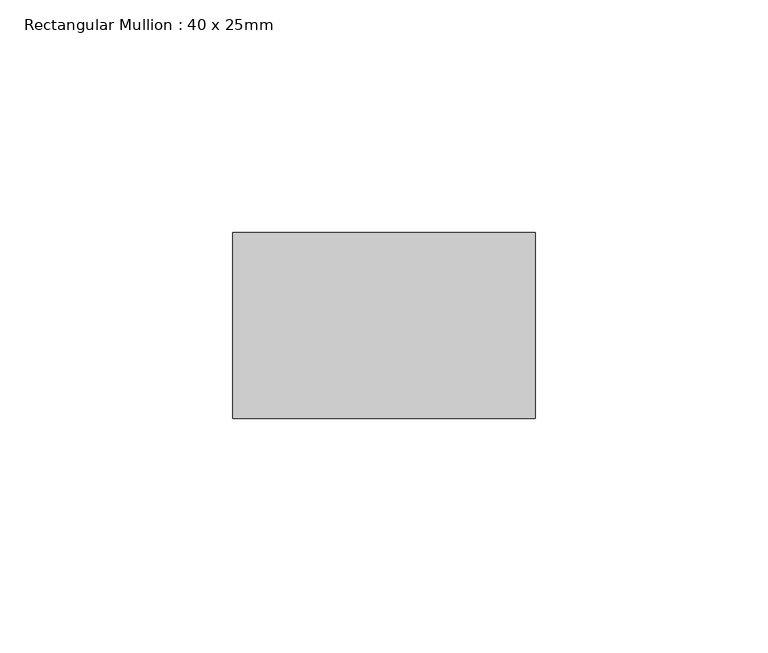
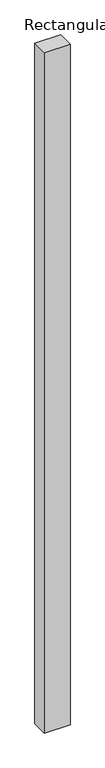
"""IFC4 building model written with IfcOpenShell, lengths in millimetres: member geometry, Rectangular Mullion : 40 x 25mm."""

from ifc_helpers import new_model, si_unit, frame, origin, place, context, project, spatial, polyline, outline, extrude, source, transform, mapped, element, save


def rectangular_mullion_40_x_25mm_04c86bfc(model_context):
    return source(origin(), model_context, "Body", "SweptSolid", [
        extrude(outline(polyline([(0.0, -20.0), (0.0, -60.0), (-65.0, -60.0), (-65.0, -20.0), (0.0, -20.0)])), frame((0.0, 0.0, -1803.0), z_axis=(0.0, 0.0, 1.0), x_axis=(1.0, 0.0, 0.0)), (0.0, 0.0, 1.0), 1803.0),
    ])


if __name__ == "__main__":
    model = new_model("IFC4")
    model_context = context("Model", 3, world=origin())
    ifc_project = project(units=[si_unit("LENGTHUNIT", "METRE", prefix="MILLI")], contexts=[model_context])
    site = spatial("IfcSite", under=ifc_project)
    building = spatial("IfcBuilding", under=site)
    placement = place(None, origin())
    rectangular_mullion_40_x_25mm_shape = rectangular_mullion_40_x_25mm_04c86bfc(model_context)
    element("IfcMember", 1, ObjectType="Rectangular Mullion : 40 x 25mm", at=placement, inside=building, context=model_context, shape_type="MappedRepresentation", body=[
        mapped(rectangular_mullion_40_x_25mm_shape, transform((0.0, 0.0, 0.0), x_axis=(1.0, 0.0, 0.0), y_axis=(0.0, 1.0, 0.0), z_axis=(0.0, 0.0, 1.0))),
    ])
    save(model, "model.ifc")
